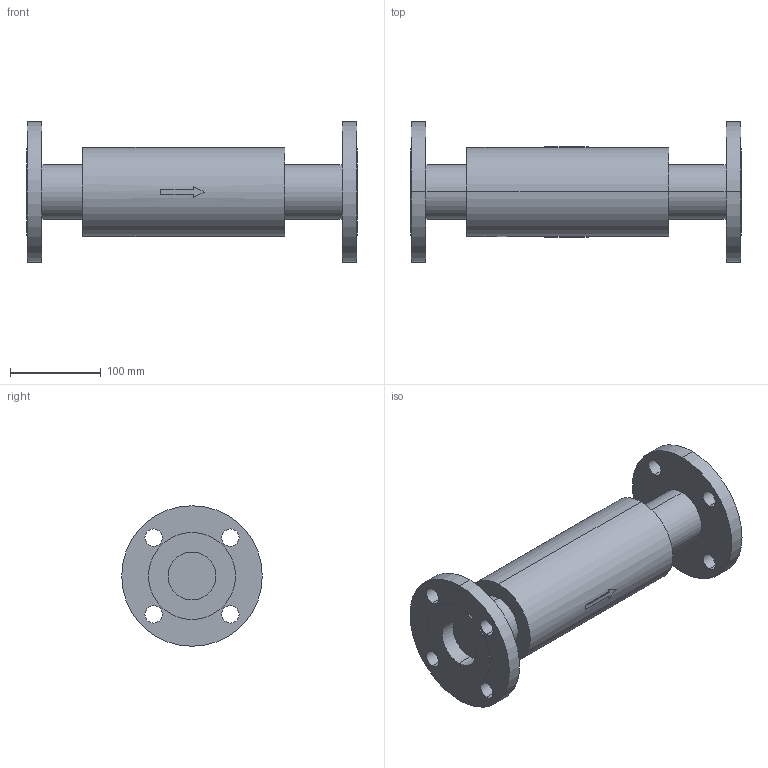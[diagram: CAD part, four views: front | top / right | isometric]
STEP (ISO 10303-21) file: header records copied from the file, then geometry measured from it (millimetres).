
FILE_DESCRIPTION( (''), '2;1');
FILE_NAME ('PC1027.10420.EB-1J　50A_18983.stp','2025-07-29T12:53:27',(''),(''),'spGate 20.6.3 (****-****-****-****)','','');
FILE_SCHEMA (('AUTOMOTIVE_DESIGN'));
Length unit declared in the file: millimetre
Bounding box: 365 x 155 x 155 mm (x, y, z)
Volume: 2505793.9 mm3; surface area: 193592.6 mm2
Topology: 1 solids, 1 shells, 60 faces, 146 edges, 98 vertices
Faces by surface type: cylinder 34, plane 26
Entity records: 2989 total; most frequent: CARTESIAN_POINT 346, DIRECTION 304, ORIENTED_EDGE 292, COLOUR_RGB 207, PRESENTATION_STYLE_ASSIGNMENT 207, STYLED_ITEM 207, EDGE_CURVE 146, DRAUGHTING_PRE_DEFINED_CURVE_FONT 146
